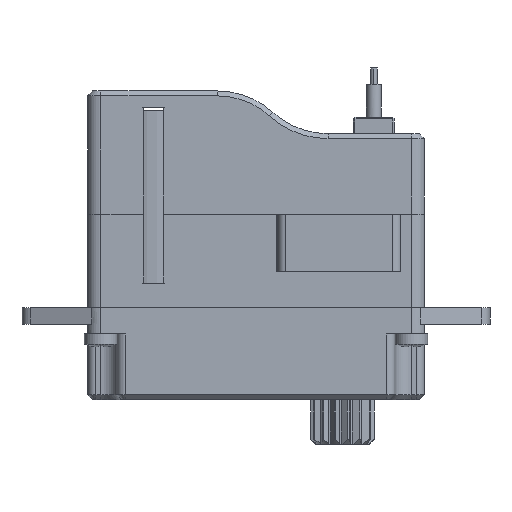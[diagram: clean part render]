
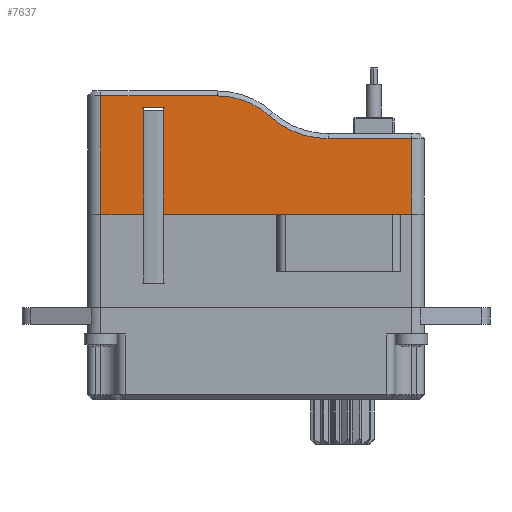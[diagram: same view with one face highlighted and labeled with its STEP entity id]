
A CAD part, front view. The second image highlights one B-rep face of the part: STEP entity #7637.
In plain terms, the highlighted planar face has unit normal (0, -1, 0).
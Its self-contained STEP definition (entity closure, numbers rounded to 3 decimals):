
#377 = VECTOR ( 'NONE', #14488, 1000. ) ;
#419 = VECTOR ( 'NONE', #3212, 1000. ) ;
#514 = LINE ( 'NONE', #14670, #3300 ) ;
#730 = VERTEX_POINT ( 'NONE', #8665 ) ;
#975 = EDGE_CURVE ( 'NONE', #12431, #730, #514, .T. ) ;
#1259 = VERTEX_POINT ( 'NONE', #11122 ) ;
#1439 = EDGE_CURVE ( 'NONE', #1259, #9218, #13790, .T. ) ;
#1695 = PLANE ( 'NONE',  #6973 ) ;
#2228 = EDGE_CURVE ( 'NONE', #16980, #10076, #9037, .T. ) ;
#2396 = DIRECTION ( 'NONE',  ( -1., 0., 0. ) ) ;
#2914 = VECTOR ( 'NONE', #11671, 1000. ) ;
#3091 = CARTESIAN_POINT ( 'NONE',  ( -98.524, -15.026, 11. ) ) ;
#3212 = DIRECTION ( 'NONE',  ( 0., 0., 1. ) ) ;
#3300 = VECTOR ( 'NONE', #6480, 1000. ) ;
#3353 = ORIENTED_EDGE ( 'NONE', *, *, #1439, .T. ) ;
#4023 = ORIENTED_EDGE ( 'NONE', *, *, #6658, .T. ) ;
#4129 = CARTESIAN_POINT ( 'NONE',  ( -117.424, -15.026, 10.7 ) ) ;
#4132 = LINE ( 'NONE', #12915, #5443 ) ;
#4312 = FACE_OUTER_BOUND ( 'NONE', #11095, .T. ) ;
#4345 = DIRECTION ( 'NONE',  ( 0., 0., -1. ) ) ;
#5287 = EDGE_CURVE ( 'NONE', #9218, #12998, #11745, .T. ) ;
#5291 = DIRECTION ( 'NONE',  ( -1., 0., 0. ) ) ;
#5443 = VECTOR ( 'NONE', #15637, 1000. ) ;
#5526 = LINE ( 'NONE', #8888, #2914 ) ;
#5535 = CARTESIAN_POINT ( 'NONE',  ( -107.153, -15.026, 9.478 ) ) ;
#5734 = VECTOR ( 'NONE', #8813, 1000. ) ;
#5768 = EDGE_CURVE ( 'NONE', #8765, #10076, #17555, .T. ) ;
#5971 = CARTESIAN_POINT ( 'NONE',  ( -113.63, -15.026, 3.5 ) ) ;
#6042 = CARTESIAN_POINT ( 'NONE',  ( -114.818, -15.026, 8.5 ) ) ;
#6480 = DIRECTION ( 'NONE',  ( 1., 0., 0. ) ) ;
#6491 = ORIENTED_EDGE ( 'NONE', *, *, #13815, .T. ) ;
#6522 = CARTESIAN_POINT ( 'NONE',  ( -117.424, -15.026, 3.5 ) ) ;
#6658 = EDGE_CURVE ( 'NONE', #15327, #1259, #7136, .T. ) ;
#6938 = CARTESIAN_POINT ( 'NONE',  ( -113.63, -15.026, 10. ) ) ;
#6973 = AXIS2_PLACEMENT_3D ( 'NONE', #11112, #12491, #4345 ) ;
#7136 = CIRCLE ( 'NONE', #14286, 4.7 ) ;
#7498 = VECTOR ( 'NONE', #12224, 1000. ) ;
#7637 = ADVANCED_FACE ( 'NONE', ( #4312 ), #1695, .F. ) ;
#8018 = VECTOR ( 'NONE', #2396, 1000. ) ;
#8596 = DIRECTION ( 'NONE',  ( 0., 0., -1. ) ) ;
#8665 = CARTESIAN_POINT ( 'NONE',  ( -98.524, -15.026, 3.5 ) ) ;
#8765 = VERTEX_POINT ( 'NONE', #12365 ) ;
#8813 = DIRECTION ( 'NONE',  ( 0., 0., 1. ) ) ;
#8824 = DIRECTION ( 'NONE',  ( 0., 0., -1. ) ) ;
#8888 = CARTESIAN_POINT ( 'NONE',  ( -97.724, -15.026, 3.5 ) ) ;
#9037 = LINE ( 'NONE', #15113, #7498 ) ;
#9057 = CARTESIAN_POINT ( 'NONE',  ( -117.424, -15.026, 11. ) ) ;
#9159 = ORIENTED_EDGE ( 'NONE', *, *, #17071, .T. ) ;
#9178 = ORIENTED_EDGE ( 'NONE', *, *, #13441, .T. ) ;
#9218 = VERTEX_POINT ( 'NONE', #4129 ) ;
#9957 = ORIENTED_EDGE ( 'NONE', *, *, #16588, .T. ) ;
#10051 = LINE ( 'NONE', #3091, #419 ) ;
#10076 = VERTEX_POINT ( 'NONE', #17393 ) ;
#10860 = CARTESIAN_POINT ( 'NONE',  ( -103.588, -15.026, 8.1 ) ) ;
#10892 = LINE ( 'NONE', #10860, #17352 ) ;
#11095 = EDGE_LOOP ( 'NONE', ( #16743, #9178, #9957, #4023, #3353, #15049, #6491, #14407, #14982, #9159, #14966 ) ) ;
#11112 = CARTESIAN_POINT ( 'NONE',  ( -97.724, -15.026, 11. ) ) ;
#11122 = CARTESIAN_POINT ( 'NONE',  ( -110.314, -15.026, 10.7 ) ) ;
#11671 = DIRECTION ( 'NONE',  ( 1., 0., 0. ) ) ;
#11745 = LINE ( 'NONE', #9057, #377 ) ;
#11963 = CARTESIAN_POINT ( 'NONE',  ( -98.524, -15.026, 8.1 ) ) ;
#11991 = CARTESIAN_POINT ( 'NONE',  ( -117.424, -15.026, 10.7 ) ) ;
#12097 = AXIS2_PLACEMENT_3D ( 'NONE', #17035, #13052, #8824 ) ;
#12125 = CARTESIAN_POINT ( 'NONE',  ( -103.588, -15.026, 8.1 ) ) ;
#12130 = CIRCLE ( 'NONE', #12097, 5.3 ) ;
#12224 = DIRECTION ( 'NONE',  ( -1., 0., 0. ) ) ;
#12365 = CARTESIAN_POINT ( 'NONE',  ( -114.818, -15.026, 3.5 ) ) ;
#12431 = VERTEX_POINT ( 'NONE', #5971 ) ;
#12491 = DIRECTION ( 'NONE',  ( 0., 1., 0. ) ) ;
#12915 = CARTESIAN_POINT ( 'NONE',  ( -113.63, -15.026, 8.5 ) ) ;
#12998 = VERTEX_POINT ( 'NONE', #6522 ) ;
#13052 = DIRECTION ( 'NONE',  ( 0., 1., 0. ) ) ;
#13441 = EDGE_CURVE ( 'NONE', #14523, #14524, #10892, .T. ) ;
#13790 = LINE ( 'NONE', #11991, #8018 ) ;
#13815 = EDGE_CURVE ( 'NONE', #12998, #8765, #5526, .T. ) ;
#14286 = AXIS2_PLACEMENT_3D ( 'NONE', #16815, #15485, #8596 ) ;
#14407 = ORIENTED_EDGE ( 'NONE', *, *, #5768, .T. ) ;
#14488 = DIRECTION ( 'NONE',  ( 0., 0., -1. ) ) ;
#14523 = VERTEX_POINT ( 'NONE', #11963 ) ;
#14524 = VERTEX_POINT ( 'NONE', #12125 ) ;
#14670 = CARTESIAN_POINT ( 'NONE',  ( -97.724, -15.026, 3.5 ) ) ;
#14966 = ORIENTED_EDGE ( 'NONE', *, *, #975, .T. ) ;
#14982 = ORIENTED_EDGE ( 'NONE', *, *, #2228, .F. ) ;
#15049 = ORIENTED_EDGE ( 'NONE', *, *, #5287, .T. ) ;
#15113 = CARTESIAN_POINT ( 'NONE',  ( -113.38, -15.026, 10. ) ) ;
#15327 = VERTEX_POINT ( 'NONE', #5535 ) ;
#15398 = EDGE_CURVE ( 'NONE', #730, #14523, #10051, .T. ) ;
#15485 = DIRECTION ( 'NONE',  ( 0., -1., 0. ) ) ;
#15637 = DIRECTION ( 'NONE',  ( 0., 0., -1. ) ) ;
#16588 = EDGE_CURVE ( 'NONE', #14524, #15327, #12130, .T. ) ;
#16743 = ORIENTED_EDGE ( 'NONE', *, *, #15398, .T. ) ;
#16815 = CARTESIAN_POINT ( 'NONE',  ( -110.314, -15.026, 6. ) ) ;
#16980 = VERTEX_POINT ( 'NONE', #6938 ) ;
#17035 = CARTESIAN_POINT ( 'NONE',  ( -103.588, -15.026, 13.4 ) ) ;
#17071 = EDGE_CURVE ( 'NONE', #16980, #12431, #4132, .T. ) ;
#17352 = VECTOR ( 'NONE', #5291, 1000. ) ;
#17393 = CARTESIAN_POINT ( 'NONE',  ( -114.818, -15.026, 10. ) ) ;
#17555 = LINE ( 'NONE', #6042, #5734 ) ;
